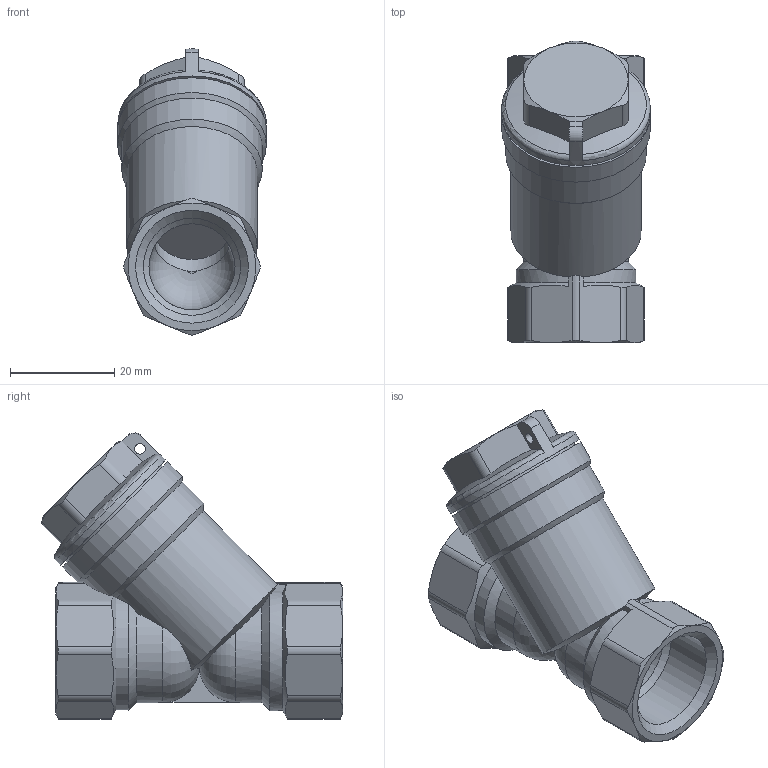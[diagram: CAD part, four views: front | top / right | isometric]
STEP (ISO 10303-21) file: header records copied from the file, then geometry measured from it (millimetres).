
FILE_DESCRIPTION(('STEP AP242'), '1');
FILE_NAME('VT.192.N.04', '', ('UNSPECIFIED'), ('UNSPECIFIED'), 'C3D Converter', 'C3D Toolkit', '');
FILE_SCHEMA(('AP242_MANAGED_MODEL_BASED_3D_ENGINEERING_MIM_LF { 1 0 10303 442 1 1 4 }'));
Length unit declared in the file: millimetre
Products named in the file (1): ВР.061146.017.000 СБ
Bounding box: 28.5 x 57.82 x 54.86 mm (x, y, z)
Surface area: 10775.9 mm2
Topology: 1 solids, 2 shells, 122 faces, 316 edges, 200 vertices
Faces by surface type: cylinder 40, plane 37, cone 37, torus 8
Full cylindrical faces by diameter (mm): 2 x1, 14 x1, 16.5 x2, 18.632 x2, 24.5 x1, 26 x1, 27 x1, 28.5 x2
Entity records: 7757 total; most frequent: CARTESIAN_POINT 5093, ORIENTED_EDGE 594, DIRECTION 446, EDGE_CURVE 299, VERTEX_POINT 200, AXIS2_PLACEMENT_3D 195, B_SPLINE_CURVE_WITH_KNOTS 164, EDGE_LOOP 146
